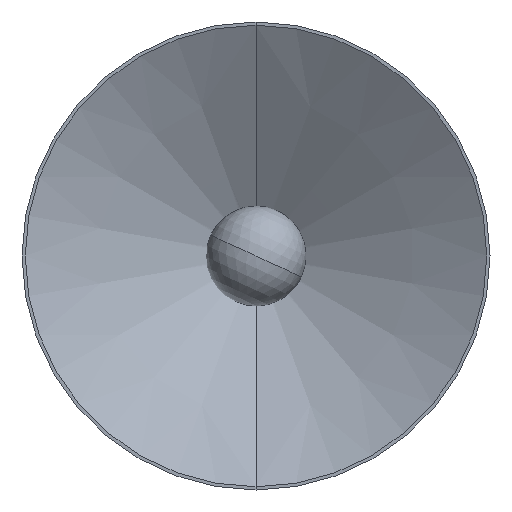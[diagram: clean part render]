
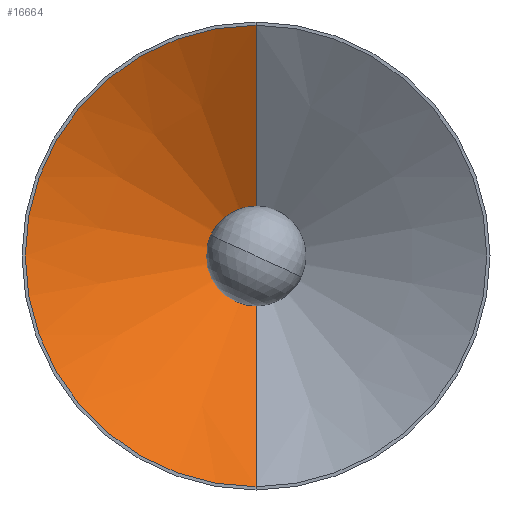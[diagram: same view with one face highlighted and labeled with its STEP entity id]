
A CAD part, front view. The second image highlights one B-rep face of the part: STEP entity #16664.
In plain terms, the highlighted conical face has half-angle 59.302 degrees and reference radius 11.338 mm.
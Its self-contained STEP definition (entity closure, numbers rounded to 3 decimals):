
#153 = LINE ( 'NONE', #5013, #857 ) ;
#694 = CONICAL_SURFACE ( 'NONE', #17275, 11.338, 1.035 ) ;
#857 = VECTOR ( 'NONE', #1775, 1000. ) ;
#925 = CARTESIAN_POINT ( 'NONE',  ( 0., -1.92, 12.046 ) ) ;
#1150 = DIRECTION ( 'NONE',  ( 0., 0., 1. ) ) ;
#1691 = CARTESIAN_POINT ( 'NONE',  ( 0., -118., -207.562 ) ) ;
#1775 = DIRECTION ( 'NONE',  ( 0., -0.511, 0.86 ) ) ;
#2436 = ORIENTED_EDGE ( 'NONE', *, *, #8827, .T. ) ;
#2732 = VERTEX_POINT ( 'NONE', #1691 ) ;
#3096 = DIRECTION ( 'NONE',  ( 0., -1., 0. ) ) ;
#3780 = EDGE_LOOP ( 'NONE', ( #14101, #2436, #4154, #5552 ) ) ;
#4012 = EDGE_CURVE ( 'NONE', #16476, #7382, #13940, .T. ) ;
#4154 = ORIENTED_EDGE ( 'NONE', *, *, #15137, .F. ) ;
#5013 = CARTESIAN_POINT ( 'NONE',  ( 0., -1.5, 11.338 ) ) ;
#5552 = ORIENTED_EDGE ( 'NONE', *, *, #19859, .F. ) ;
#6039 = CARTESIAN_POINT ( 'NONE',  ( 0., -1.5, 0. ) ) ;
#6768 = AXIS2_PLACEMENT_3D ( 'NONE', #15058, #10270, #16464 ) ;
#7382 = VERTEX_POINT ( 'NONE', #925 ) ;
#7463 = DIRECTION ( 'NONE',  ( 0., 1., 0. ) ) ;
#8827 = EDGE_CURVE ( 'NONE', #7382, #12993, #153, .T. ) ;
#9545 = CARTESIAN_POINT ( 'NONE',  ( 0., -118., 207.562 ) ) ;
#10260 = VECTOR ( 'NONE', #16020, 1000. ) ;
#10270 = DIRECTION ( 'NONE',  ( 0., 1., 0. ) ) ;
#12993 = VERTEX_POINT ( 'NONE', #9545 ) ;
#13068 = CARTESIAN_POINT ( 'NONE',  ( 0., -1.5, -11.338 ) ) ;
#13259 = LINE ( 'NONE', #13068, #10260 ) ;
#13940 = CIRCLE ( 'NONE', #6768, 12.046 ) ;
#14009 = DIRECTION ( 'NONE',  ( 0., 0., -1. ) ) ;
#14101 = ORIENTED_EDGE ( 'NONE', *, *, #4012, .T. ) ;
#15058 = CARTESIAN_POINT ( 'NONE',  ( 0., -1.92, 0. ) ) ;
#15137 = EDGE_CURVE ( 'NONE', #2732, #12993, #15311, .T. ) ;
#15311 = CIRCLE ( 'NONE', #19867, 207.562 ) ;
#16020 = DIRECTION ( 'NONE',  ( 0., -0.511, -0.86 ) ) ;
#16464 = DIRECTION ( 'NONE',  ( 0., 0., -1. ) ) ;
#16476 = VERTEX_POINT ( 'NONE', #17013 ) ;
#16664 = ADVANCED_FACE ( 'NONE', ( #16841 ), #694, .F. ) ;
#16841 = FACE_OUTER_BOUND ( 'NONE', #3780, .T. ) ;
#17013 = CARTESIAN_POINT ( 'NONE',  ( 0., -1.92, -12.046 ) ) ;
#17275 = AXIS2_PLACEMENT_3D ( 'NONE', #6039, #3096, #14009 ) ;
#18370 = CARTESIAN_POINT ( 'NONE',  ( 0., -118., 0. ) ) ;
#19859 = EDGE_CURVE ( 'NONE', #16476, #2732, #13259, .T. ) ;
#19867 = AXIS2_PLACEMENT_3D ( 'NONE', #18370, #7463, #1150 ) ;
